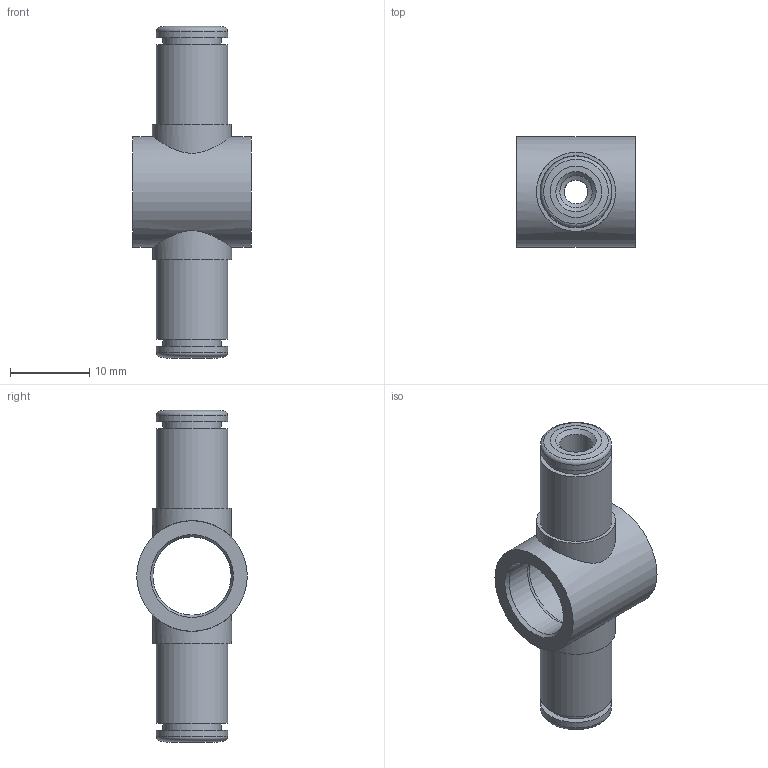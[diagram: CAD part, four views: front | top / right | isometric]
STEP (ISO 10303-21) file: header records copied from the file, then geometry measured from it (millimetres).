
FILE_DESCRIPTION(('Bauteilbeschreibung','HiCAD-Model','HiCAD-STEP-TRANSLATION','Bauteilbeschreibung'),'2;1');
FILE_NAME('B:/ABGLEICH/ZEICHNUNGEN/STEP FÜR INTERNET/STEP/201302_IPSO_014_4_1-8.STP','2011-08-03T13:18:14+00:00',('Konstrukteur'),('Konstrukteur Firma GmbH'),' HiCAD neXt 2008, Step 3.1.1401.2J ','HiCAD neXt 2008','confidential');
FILE_SCHEMA(('AUTOMOTIVE_DESIGN { 1 2 10303 214 0 1 1 1 }'));
Length unit declared in the file: millimetre
Products named in the file (4): A01302_IPSO_014_4_1_8; DR4_1_NEU; DR4010NEU; R201302_N
Assembly tree (3 placements, depth 2):
  A01302_IPSO_014_4_1_8
    DR4_1_NEU
    DR4010NEU
    R201302_N
Bounding box: 15 x 14 x 42 mm (x, y, z)
Volume: 2266.2 mm3; surface area: 3238.3 mm2
Topology: 3 solids, 3 shells, 60 faces, 123 edges, 75 vertices
Faces by surface type: cylinder 24, cone 20, plane 14, torus 2
Full cylindrical faces by diameter (mm): 3 x2, 4.1 x4, 6.4 x2, 7.3 x2, 7.4 x2, 7.6 x2, 9 x2, 9.1 x2, 9.9 x2, 10 x2, 10.6 x1, 14 x1
Entity records: 4278 total; most frequent: CARTESIAN_POINT 2831, DIRECTION 248, ORIENTED_EDGE 126, AXIS2_PLACEMENT_3D 124, EDGE_LOOP 124, FACE_BOUND 64, EDGE_CURVE 63, VERTEX_POINT 63
